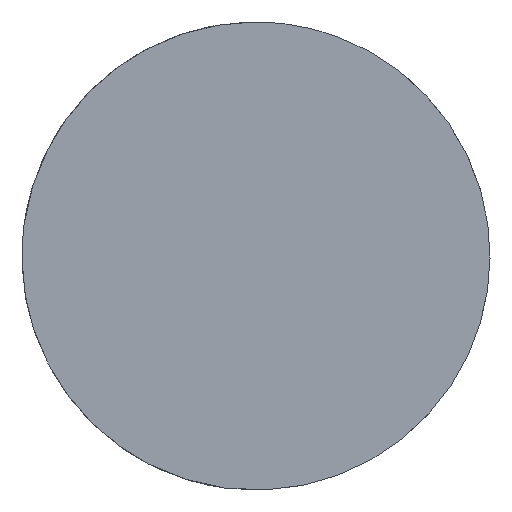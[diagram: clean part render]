
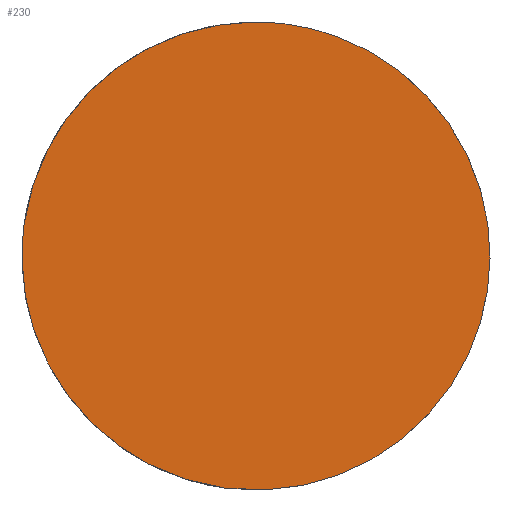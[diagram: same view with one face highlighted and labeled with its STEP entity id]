
A CAD part, top view. The second image highlights one B-rep face of the part: STEP entity #230.
In plain terms, the highlighted planar face has unit normal (0, 0, 1).
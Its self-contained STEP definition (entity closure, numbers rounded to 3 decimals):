
#230=ADVANCED_FACE('',(#407),#3077,.T.);
#407=FACE_OUTER_BOUND('',#596,.T.);
#596=EDGE_LOOP('',(#911,#912,#913));
#911=ORIENTED_EDGE('',*,*,#1821,.F.);
#912=ORIENTED_EDGE('',*,*,#1823,.F.);
#913=ORIENTED_EDGE('',*,*,#1822,.T.);
#1821=EDGE_CURVE('',#2777,#2773,#2513,.T.);
#1822=EDGE_CURVE('',#2774,#2773,#2514,.T.);
#1823=EDGE_CURVE('',#2774,#2777,#2515,.T.);
#2513=(
BOUNDED_CURVE()
B_SPLINE_CURVE(2,(#4234,#4235,#4236),.UNSPECIFIED.,.F.,.F.)
B_SPLINE_CURVE_WITH_KNOTS((3,3),(-1413.717,0.),.UNSPECIFIED.)
CURVE()
GEOMETRIC_REPRESENTATION_ITEM()
RATIONAL_B_SPLINE_CURVE((1.,0.707,1.))
REPRESENTATION_ITEM('')
);
#2514=(
BOUNDED_CURVE()
B_SPLINE_CURVE(2,(#4237,#4238,#4239,#4240,#4241),.UNSPECIFIED.,.F.,.F.)
B_SPLINE_CURVE_WITH_KNOTS((3,2,3),(0.,1413.717,2827.433),
 .UNSPECIFIED.)
CURVE()
GEOMETRIC_REPRESENTATION_ITEM()
RATIONAL_B_SPLINE_CURVE((1.,0.707,1.,0.707,1.))
REPRESENTATION_ITEM('')
);
#2515=(
BOUNDED_CURVE()
B_SPLINE_CURVE(2,(#4242,#4243,#4244),.UNSPECIFIED.,.F.,.F.)
B_SPLINE_CURVE_WITH_KNOTS((3,3),(-2827.433,-1413.717),
 .UNSPECIFIED.)
CURVE()
GEOMETRIC_REPRESENTATION_ITEM()
RATIONAL_B_SPLINE_CURVE((1.,0.707,1.))
REPRESENTATION_ITEM('')
);
#2773=VERTEX_POINT('',#4226);
#2774=VERTEX_POINT('',#4227);
#2777=VERTEX_POINT('',#4230);
#3077=PLANE('',#3270);
#3270=AXIS2_PLACEMENT_3D('',#3912,#3353,$);
#3353=DIRECTION('',(0.,0.,1.));
#3912=CARTESIAN_POINT('',(-3406.145,-797.544,745.734));
#4226=CARTESIAN_POINT('',(-4457.664,1627.987,745.734));
#4227=CARTESIAN_POINT('',(-4696.748,-156.065,745.734));
#4230=CARTESIAN_POINT('',(-5469.232,855.503,745.734));
#4234=CARTESIAN_POINT('',(-5469.232,855.503,745.734));
#4235=CARTESIAN_POINT('',(-5349.69,1747.529,745.734));
#4236=CARTESIAN_POINT('',(-4457.664,1627.987,745.734));
#4237=CARTESIAN_POINT('',(-4696.748,-156.065,745.734));
#4238=CARTESIAN_POINT('',(-3804.723,-275.607,745.734));
#4239=CARTESIAN_POINT('',(-3685.181,616.419,745.734));
#4240=CARTESIAN_POINT('',(-3565.639,1508.445,745.734));
#4241=CARTESIAN_POINT('',(-4457.664,1627.987,745.734));
#4242=CARTESIAN_POINT('',(-4696.748,-156.065,745.734));
#4243=CARTESIAN_POINT('',(-5588.774,-36.523,745.734));
#4244=CARTESIAN_POINT('',(-5469.232,855.503,745.734));
